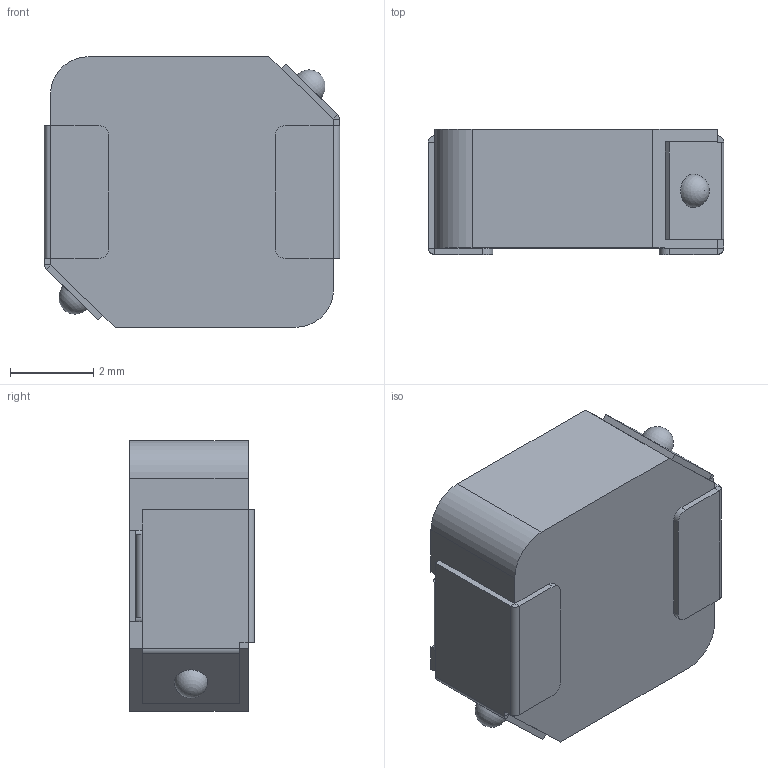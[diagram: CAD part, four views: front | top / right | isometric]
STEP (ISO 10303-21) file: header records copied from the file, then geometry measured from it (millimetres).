
FILE_DESCRIPTION(/* description */ ('STEP AP214','CAx-IF Rec.Pracs.---Representation and Presentation of Product Manufacturing Information (PMI)---4.0---2014-10-13'),/* implementation_level */ '2;1');
FILE_NAME(/* name */ 'SPM6530T-1R0M120.step',/* time_stamp */ '2025-03-31T20:35:00+02:00',/* author */ (''),/* organization */ (''),/* preprocessor_version */ 'ST-DEVELOPER v20',/* originating_system */ 'Autodesk Translation Framework v13.20.0.188',/* authorisation */ '');
FILE_SCHEMA (('AP242_MANAGED_MODEL_BASED_3D_ENGINEERING_MIM_LF { 1 0 10303 442 1 1 4 }'));
Length unit declared in the file: millimetre
Products named in the file (1): SPM6530T-100M
Bounding box: 7.1 x 3 x 6.5 mm (x, y, z)
Volume: 122.8 mm3; surface area: 245.7 mm2
Topology: 5 solids, 5 shells, 104 faces, 238 edges, 142 vertices
Faces by surface type: plane 74, cylinder 28, sphere 2
Full cylindrical faces by diameter (mm): 0.8 x4
Entity records: 2901 total; most frequent: DIRECTION 504, CARTESIAN_POINT 483, ORIENTED_EDGE 472, EDGE_CURVE 236, LINE 178, VECTOR 178, AXIS2_PLACEMENT_3D 163, VERTEX_POINT 142
